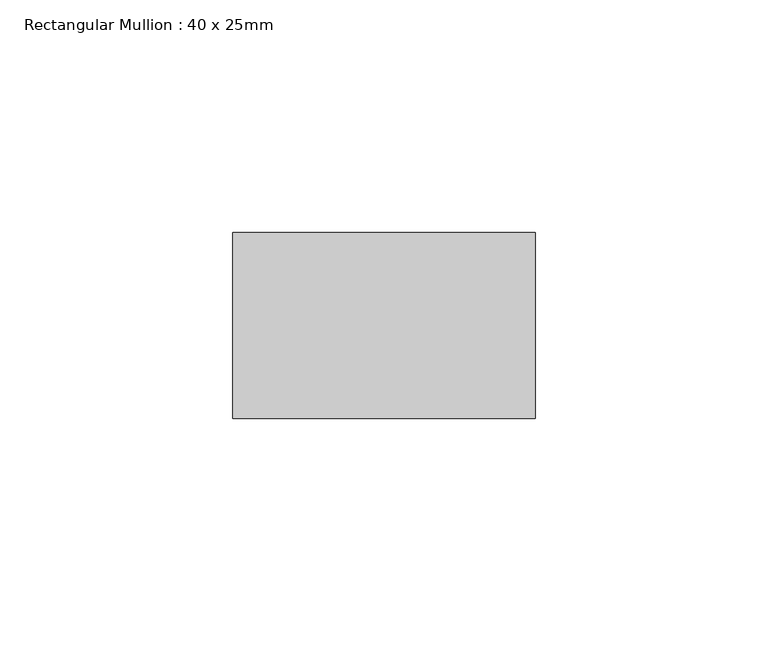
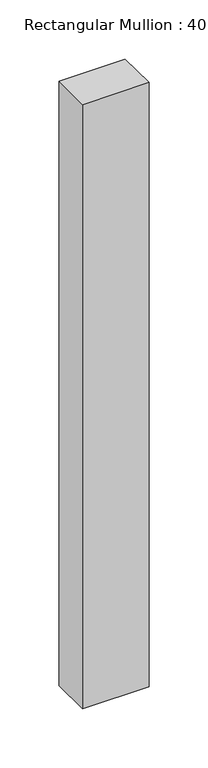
"""IFC4 building model written with IfcOpenShell, lengths in millimetres: member geometry, Rectangular Mullion : 40 x 25mm."""

from ifc_helpers import new_model, si_unit, frame, origin, place, context, project, spatial, polyline, outline, extrude, source, transform, mapped, element, save


def rectangular_mullion_40_x_25mm_43b5f735(model_context):
    return source(origin(), model_context, "Body", "SweptSolid", [
        extrude(outline(polyline([(0.0, -20.0), (0.0, -60.0), (-65.0, -60.0), (-65.0, -20.0), (0.0, -20.0)])), frame((0.0, 0.0, -625.0), z_axis=(0.0, 0.0, 1.0), x_axis=(1.0, 0.0, 0.0)), (0.0, 0.0, 1.0), 625.0),
    ])


if __name__ == "__main__":
    model = new_model("IFC4")
    model_context = context("Model", 3, world=origin())
    ifc_project = project(units=[si_unit("LENGTHUNIT", "METRE", prefix="MILLI")], contexts=[model_context])
    site = spatial("IfcSite", under=ifc_project)
    building = spatial("IfcBuilding", under=site)
    placement = place(None, origin())
    rectangular_mullion_40_x_25mm_shape = rectangular_mullion_40_x_25mm_43b5f735(model_context)
    element("IfcMember", 1, ObjectType="Rectangular Mullion : 40 x 25mm", at=placement, inside=building, context=model_context, shape_type="MappedRepresentation", body=[
        mapped(rectangular_mullion_40_x_25mm_shape, transform((0.0, 0.0, 0.0), x_axis=(1.0, 0.0, 0.0), y_axis=(0.0, 1.0, 0.0), z_axis=(0.0, 0.0, 1.0))),
    ])
    save(model, "model.ifc")
